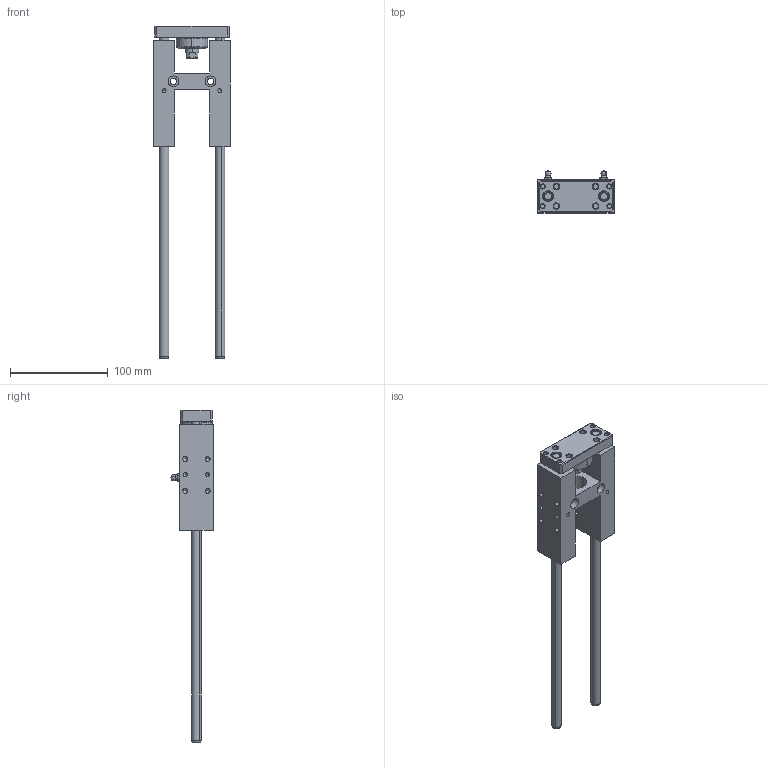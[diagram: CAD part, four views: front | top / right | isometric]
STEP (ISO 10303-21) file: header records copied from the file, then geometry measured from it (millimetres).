
FILE_DESCRIPTION (( 'STEP AP214' ), '1' );
FILE_NAME ('WHCR-025-0200 (3D).STEP', '2018-11-28T11:41:17', ( 'Hidtek' ), ( '' ), 'SwSTEP 2.0', 'SolidWorks 2016', '' );
FILE_SCHEMA (( 'AUTOMOTIVE_DESIGN' ));
Length unit declared in the file: millimetre
Products named in the file (4): Group2^WHCR-025-0200 (3D); Group3^WHCR-025-0200 (3D); Group1^WHCR-025-0200 (3D); WHCR-025-0200 (3D)
Assembly tree (3 placements, depth 2):
  WHCR-025-0200 (3D)
    Group1^WHCR-025-0200 (3D)
    Group2^WHCR-025-0200 (3D)
    Group3^WHCR-025-0200 (3D)
Bounding box: 78 x 43.05 x 339 mm (x, y, z)
Volume: 247876.4 mm3; surface area: 70175 mm2
Topology: 14 solids, 14 shells, 638 faces, 1587 edges, 994 vertices
Faces by surface type: plane 318, cylinder 120, bspline 106, cone 94
Entity records: 25153 total; most frequent: CARTESIAN_POINT 9331, ORIENTED_EDGE 3086, DIRECTION 2765, EDGE_CURVE 1543, VERTEX_POINT 994, LINE 957, VECTOR 957, AXIS2_PLACEMENT_3D 904
